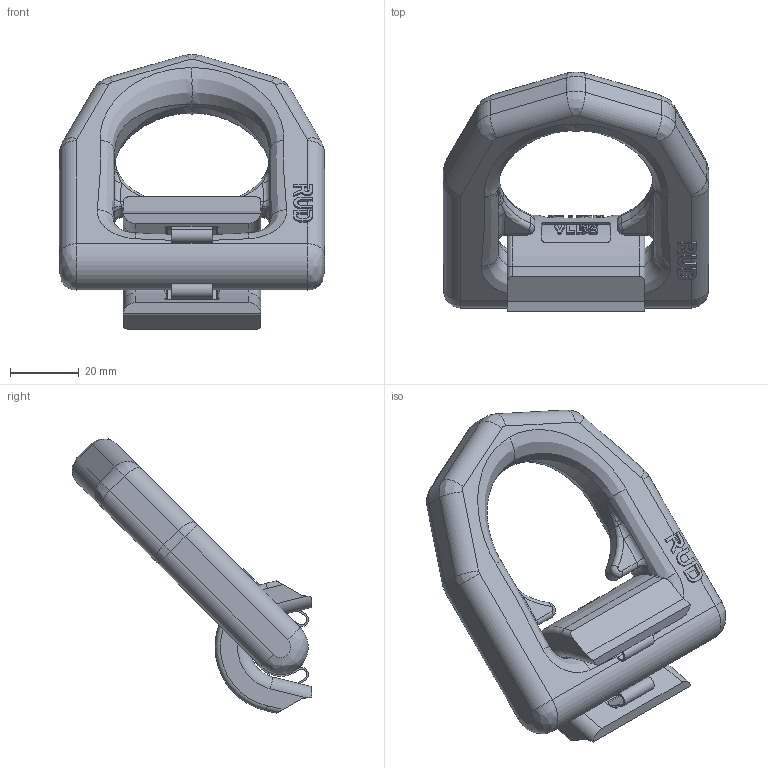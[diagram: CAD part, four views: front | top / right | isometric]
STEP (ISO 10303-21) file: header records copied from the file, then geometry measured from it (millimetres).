
FILE_DESCRIPTION((''),'2;1');
FILE_NAME('001-M34884-P3_ASM','2017-10-05T',('anja.joas'),(''),'PRO/ENGINEER BY PARAMETRIC TECHNOLOGY CORPORATION, 2011490','PRO/ENGINEER BY PARAMETRIC TECHNOLOGY CORPORATION, 2011490','');
FILE_SCHEMA(('CONFIG_CONTROL_DESIGN'));
Length unit declared in the file: millimetre
Products named in the file (4): 001-M34884-P2; 001-M34884-P1; 001-M35147-RT331; 001-M34884-P3_ASM
Assembly tree (3 placements, depth 2):
  001-M34884-P3_ASM
    001-M34884-P2
    001-M34884-P1
    001-M35147-RT331
Bounding box: 77 x 69.47 x 79.68 mm (x, y, z)
Volume: 71976.9 mm3; surface area: 21784.4 mm2
Topology: 3 solids, 3 shells, 452 faces, 1182 edges, 752 vertices
Faces by surface type: plane 172, cylinder 105, extrusion 87, bspline 62, torus 26
Entity records: 26892 total; most frequent: CARTESIAN_POINT 16383, ORIENTED_EDGE 2364, DIRECTION 1833, EDGE_CURVE 1182, VERTEX_POINT 752, VECTOR 629, AXIS2_PLACEMENT_3D 602, LINE 542
